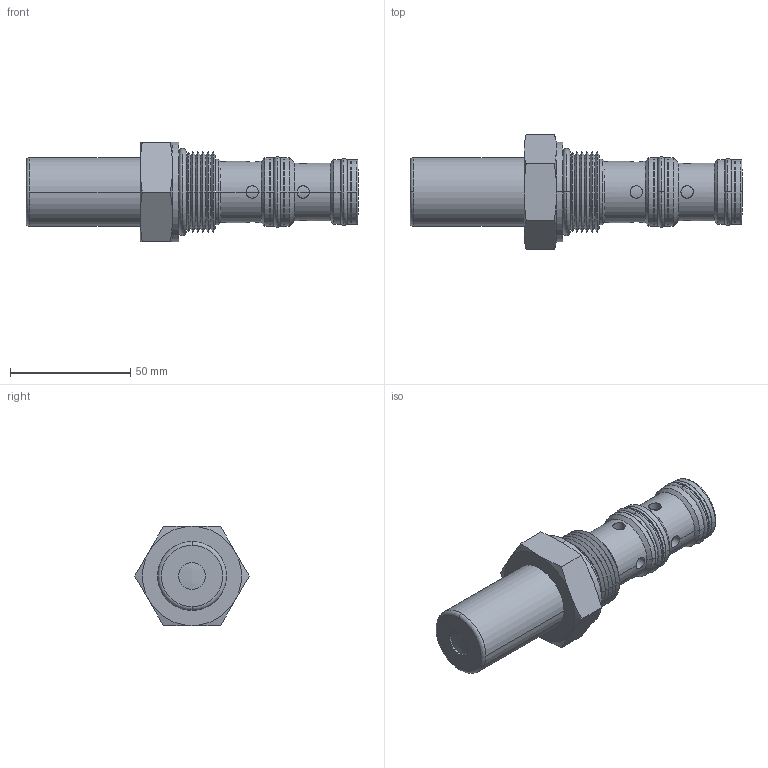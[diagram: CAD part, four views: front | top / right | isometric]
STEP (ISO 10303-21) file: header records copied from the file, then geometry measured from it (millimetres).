
FILE_DESCRIPTION((''),'2;1');
FILE_NAME('U:\Solid model CD\Solid model full\Mechanical\STEP\SKPRP0T-3D Full.stp','2008-07-29T10:01:34',('Dan'),(''),'Autodesk Inventor 9','Autodesk Inventor 9','');
FILE_SCHEMA(('AUTOMOTIVE_DESIGN { 1 0 10303 214 1 1 1 1 }'));
Length unit declared in the file: inch
Products named in the file (8): SKPRP0T-3D Full; SKPRP0T-3D Full1; SKPRP0T-3D Full2; SKPRP0T-3D Full3; SKPRP0T-3D Full4; SKPRP0T-3D Full5; SKPRP0T-3D Full6; SKPRP0T-3D Full7
Assembly tree (7 placements, depth 2):
  SKPRP0T-3D Full
    SKPRP0T-3D Full1
    SKPRP0T-3D Full2
    SKPRP0T-3D Full3
    SKPRP0T-3D Full4
    SKPRP0T-3D Full5
    SKPRP0T-3D Full6
    SKPRP0T-3D Full7
Bounding box: 138.16 x 47.66 x 41.27 mm (x, y, z)
Volume: 95457.2 mm3; surface area: 23543.4 mm2
Topology: 8 solids, 8 shells, 168 faces, 362 edges, 220 vertices
Faces by surface type: cylinder 74, cone 48, plane 27, torus 18, sphere 1
Entity records: 5242 total; most frequent: CARTESIAN_POINT 1373, DIRECTION 834, ORIENTED_EDGE 724, EDGE_CURVE 362, AXIS2_PLACEMENT_3D 361, VERTEX_POINT 220, EDGE_LOOP 190, CIRCLE 178
